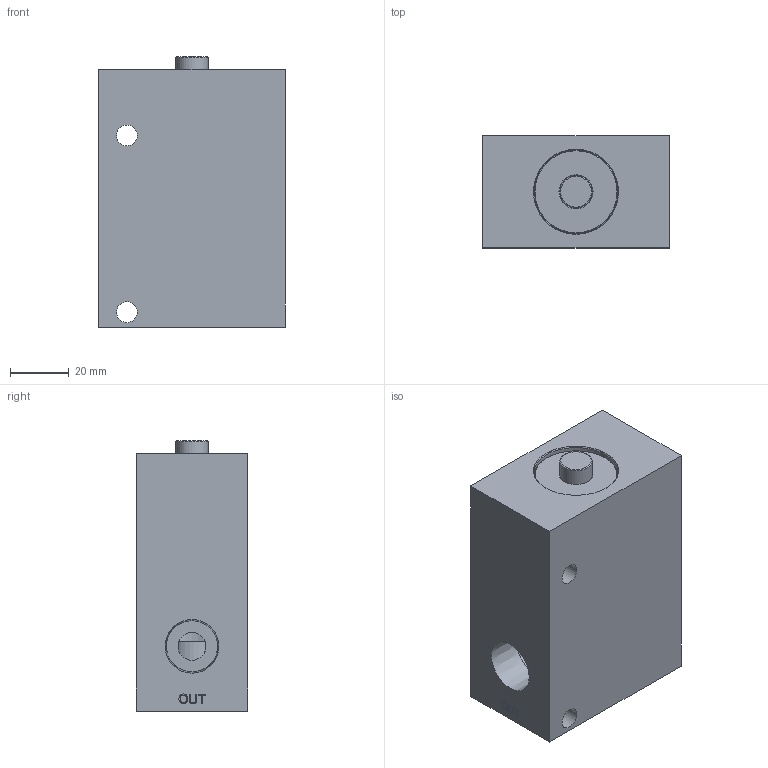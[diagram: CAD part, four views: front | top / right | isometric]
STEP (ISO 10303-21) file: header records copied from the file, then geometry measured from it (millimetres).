
FILE_DESCRIPTION(/* description */ (''),/* implementation_level */ '2;1');
FILE_NAME(/* name */ 'L:\ALADCO\Advertising\3D Content\Valves\Step Files - 2014-11-19 thru Present\40500X.stp',/* time_stamp */ '2014-11-19T16:31:38-06:00',/* author */ ('dmatz'),/* organization */ (''),/* preprocessor_version */ 'ST-DEVELOPER v15.2',/* originating_system */ 'Autodesk Inventor 2014',/* authorisation */ '');
FILE_SCHEMA (('CONFIG_CONTROL_DESIGN','AUTOMOTIVE_DESIGN { 1 0 10303 214 3 1 1 }'));
Length unit declared in the file: inch
Products named in the file (5): 555000NPTF; 311021; 311015; 301076; 505001
Bounding box: 63.5 x 38.1 x 92.2 mm (x, y, z)
Volume: 172140.6 mm3; surface area: 40740.8 mm2
Topology: 4 solids, 4 shells, 185 faces, 424 edges, 277 vertices
Faces by surface type: plane 99, cylinder 28, bspline 26, cone 18, torus 14
Full cylindrical faces by diameter (mm): 1.499 x1, 6.629 x1, 7.112 x2, 9.144 x1, 9.525 x2, 10.719 x1, 11.049 x2, 11.1 x1, 12.7 x1, 13.081 x1, 15.081 x1, 17.475 x2, 17.577 x1, 22.149 x1, 24.409 x1, 24.435 x1, 25.4 x2, 28.524 x4, 28.575 x2
Entity records: 5367 total; most frequent: CARTESIAN_POINT 1369, DIRECTION 710, ORIENTED_EDGE 684, EDGE_CURVE 342, EDGE_LOOP 292, VERTEX_POINT 258, AXIS2_PLACEMENT_3D 255, LINE 200
